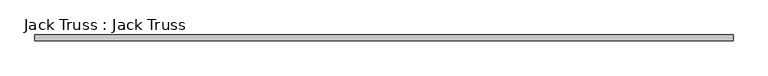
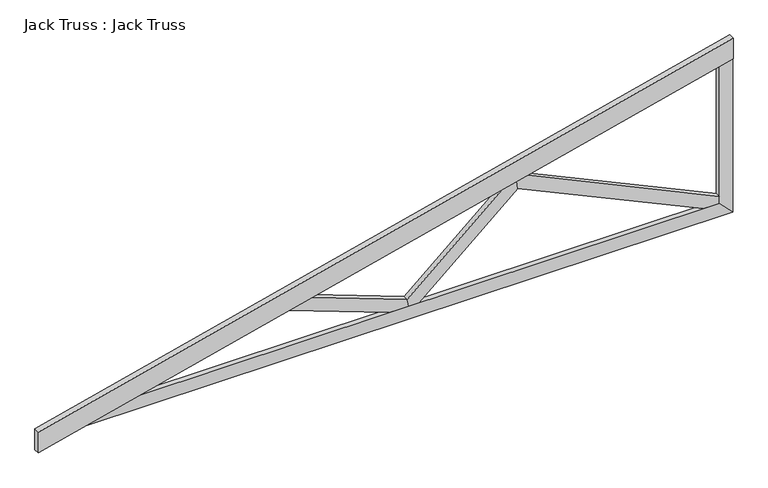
"""IFC4 building model written with IfcOpenShell, lengths in millimetres: beam geometry, Jack Truss : Jack Truss."""

from ifc_helpers import new_model, si_unit, origin, place, context, project, spatial, faceted_brep, source, transform, mapped, element, save


def jack_truss_jack_truss_8aeecc7e(model_context):
    return source(origin(), model_context, "Body", "Brep", [
        faceted_brep([(991.2906456, -192.268471, 658.6657216), (2212.2171919, -192.268471, 88.9), (2317.328395, -192.268471, 88.9), (2317.328395, -192.268471, 137.9518947), (1052.2728992, -192.268471, 728.3111261), (983.828395, -192.268471, 711.2), (991.2906456, -160.518471, 658.6657216), (2212.2171919, -160.518471, 88.9), (983.828395, -160.518471, 711.2), (1052.2728992, -160.518471, 728.3111261), (2317.328395, -160.518471, 137.9518947), (2317.328395, -160.518471, 88.9), (263.3554935, -192.268471, 139.8499589), (272.628395, -192.268471, 88.9), (340.1298209, -192.268471, 88.9), (889.3263987, -192.268471, 687.5745009), (340.1298209, -160.518471, 88.9), (272.628395, -160.518471, 88.9), (263.3554935, -160.518471, 139.8499589), (889.3263987, -160.518471, 687.5745009), (-362.6154118, -192.268471, 374.5890483), (-514.5277983, -192.268471, 336.6109517), (146.0347395, -192.268471, 88.9), (146.0347395, -160.518471, 88.9), (-514.5277983, -160.518471, 336.6109517), (-362.6154118, -160.518471, 374.5890483), (2317.328395, -193.855971, 88.9), (2317.328395, -158.930971, 88.9), (-1505.371605, -158.930971, 88.9), (-1505.371605, -193.855971, 88.9), (2406.228395, -158.930971, 0.0), (-1860.971605, -158.930971, 0.0), (2406.228395, -193.855971, 0.0), (-1860.971605, -193.855971, 0.0), (2317.328395, -193.855971, 1044.575), (2317.328395, -158.930971, 1044.575), (2406.228395, -158.930971, 1066.8), (2406.228395, -157.343471, 1066.8), (2406.228395, -157.343471, 1210.799464), (2406.228395, -195.443471, 1210.799464), (2406.228395, -195.443471, 1066.8), (2406.228395, -193.855971, 1066.8), (-2165.771605, -195.443471, -76.2), (-2165.771605, -195.443471, 67.799464), (-2165.771605, -157.343471, -76.2), (-2165.771605, -157.343471, 67.799464)], [[[0, 1, 2, 3, 4, 5]], [[0, 6, 7, 1]], [[7, 6, 8, 9, 10, 11]], [[3, 10, 9, 4]], [[12, 13, 14, 0, 5, 15]], [[6, 0, 14, 16]], [[6, 16, 17, 18, 19, 8]], [[18, 12, 15, 19]], [[13, 12, 20, 21, 22]], [[23, 22, 21, 24]], [[18, 17, 23, 24, 25]], [[12, 18, 25, 20]], [[26, 2, 1, 7, 11, 27, 28, 29], [14, 13, 22, 23, 17, 16]], [[27, 30, 31, 28]], [[31, 30, 32, 33]], [[33, 32, 26, 29]], [[2, 26, 34, 35, 27, 11, 10, 3]], [[30, 27, 35, 36]], [[32, 30, 36, 37, 38, 39, 40, 41]], [[26, 32, 41, 34]], [[42, 40, 39, 43]], [[44, 45, 38, 37]], [[40, 42, 44, 37, 36, 35, 34, 41], [5, 4, 9, 8, 19, 15], [21, 20, 25, 24], [29, 28, 31, 33]], [[43, 39, 38, 45]], [[42, 43, 45, 44]]]),
    ])


if __name__ == "__main__":
    model = new_model("IFC4")
    model_context = context("Model", 3, world=origin())
    ifc_project = project(units=[si_unit("LENGTHUNIT", "METRE", prefix="MILLI")], contexts=[model_context])
    site = spatial("IfcSite", under=ifc_project)
    building = spatial("IfcBuilding", under=site)
    placement = place(None, origin())
    jack_truss_jack_truss_shape = jack_truss_jack_truss_8aeecc7e(model_context)
    element("IfcBeam", 1, ObjectType="Jack Truss : Jack Truss", at=placement, inside=building, context=model_context, shape_type="MappedRepresentation", body=[
        mapped(jack_truss_jack_truss_shape, transform((0.0, 0.0, 0.0), x_axis=(1.0, 0.0, 0.0), y_axis=(0.0, 1.0, 0.0), z_axis=(0.0, 0.0, 1.0))),
    ])
    save(model, "model.ifc")
